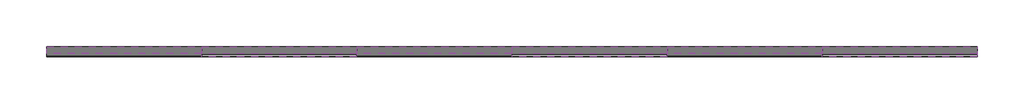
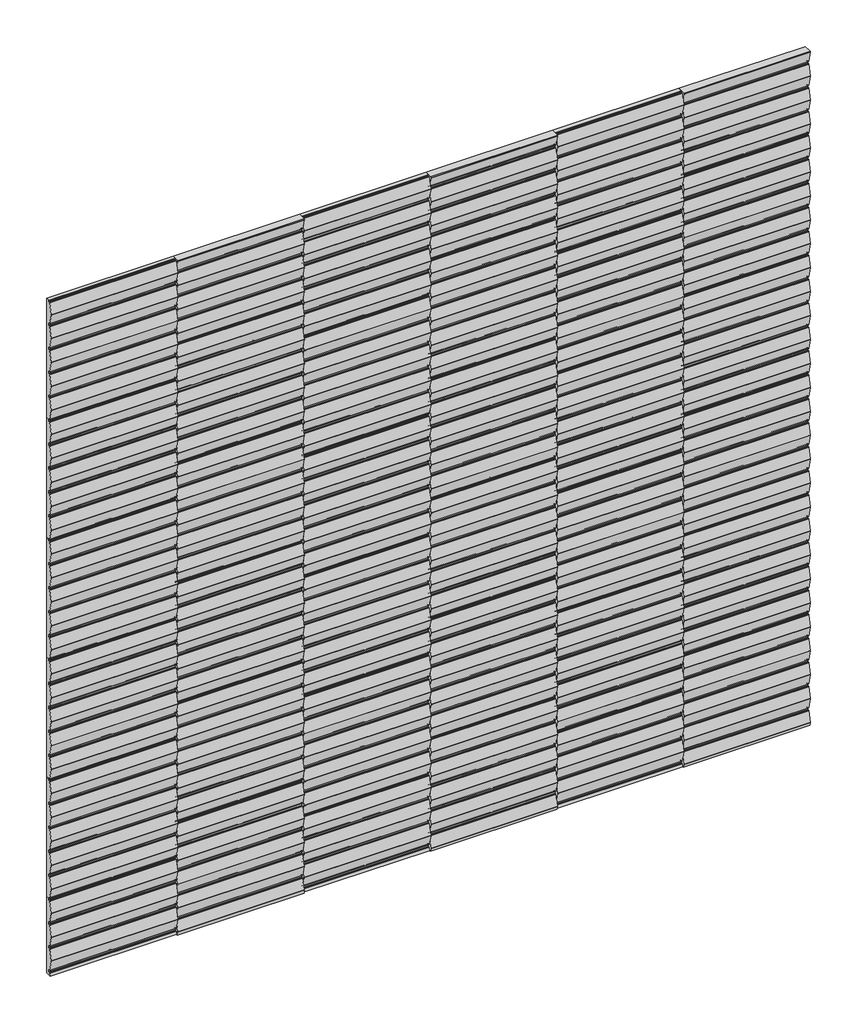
# One storey: 36 proxies.
"""IFC4 building model written with IfcOpenShell, lengths in millimetres."""

from ifc_helpers import new_model, si_unit, origin, place, context, project, spatial, transform, mapped, element, save
from components import specialty_equipment_52cbe585, specialty_equipment_d38fff4d, specialty_equipment_08d15245, specialty_equipment_7f9fb075

model = new_model("IFC4")

# Units and contexts
model_context = context("Model", 3, world=origin())
ifc_project = project(units=[si_unit("LENGTHUNIT", "METRE", prefix="MILLI")], contexts=[model_context])

# Site, building, storey
site = spatial("IfcSite", under=ifc_project)
building = spatial("IfcBuilding", under=site)
storey = spatial("IfcBuildingStorey", under=building, Name="Nível 1", Elevation=0.0)

# Proxies
placement = place(None, origin())
specialty_equipment_shape = specialty_equipment_52cbe585(model_context)
element("IfcBuildingElementProxy", 1, Name="Spinneybeck_Porto 2 : Porto 2", ObjectType="Spinneybeck_Porto 2 : Porto 2", at=placement, inside=storey, context=model_context, shape_type="MappedRepresentation", body=[
    mapped(specialty_equipment_shape, transform((-3406.4383737, 552.5357437, 461.4128011), x_axis=(0.0, 0.0, 1.0), y_axis=(-1.0, 0.0, 0.0), z_axis=(0.0, -1.0, 0.0))),
])
element("IfcBuildingElementProxy", 2, Name="Spinneybeck_Porto 2 : Porto 2", ObjectType="Spinneybeck_Porto 2 : Porto 2", at=placement, inside=storey, context=model_context, shape_type="MappedRepresentation", body=[
    mapped(specialty_equipment_shape, transform((-3406.4383737, 552.5357437, 867.8128011), x_axis=(0.0, 0.0, 1.0), y_axis=(-1.0, 0.0, 0.0), z_axis=(0.0, -1.0, 0.0))),
])
element("IfcBuildingElementProxy", 3, Name="Spinneybeck_Porto 2 : Porto 2", ObjectType="Spinneybeck_Porto 2 : Porto 2", at=placement, inside=storey, context=model_context, shape_type="MappedRepresentation", body=[
    mapped(specialty_equipment_shape, transform((-3406.4383737, 552.5357437, 1274.2128011), x_axis=(0.0, 0.0, 1.0), y_axis=(-1.0, 0.0, 0.0), z_axis=(0.0, -1.0, 0.0))),
])
element("IfcBuildingElementProxy", 4, Name="Spinneybeck_Porto 2 : Porto 2", ObjectType="Spinneybeck_Porto 2 : Porto 2", at=placement, inside=storey, context=model_context, shape_type="MappedRepresentation", body=[
    mapped(specialty_equipment_shape, transform((-3406.4383737, 552.5357437, 1680.6128011), x_axis=(0.0, 0.0, 1.0), y_axis=(-1.0, 0.0, 0.0), z_axis=(0.0, -1.0, 0.0))),
])
element("IfcBuildingElementProxy", 5, Name="Spinneybeck_Porto 2 : Porto 2", ObjectType="Spinneybeck_Porto 2 : Porto 2", at=placement, inside=storey, context=model_context, shape_type="MappedRepresentation", body=[
    mapped(specialty_equipment_shape, transform((-3406.4383737, 552.5357437, 2087.0128011), x_axis=(0.0, 0.0, 1.0), y_axis=(-1.0, 0.0, 0.0), z_axis=(0.0, -1.0, 0.0))),
])
element("IfcBuildingElementProxy", 6, Name="Spinneybeck_Porto 2 : Porto 2", ObjectType="Spinneybeck_Porto 2 : Porto 2", at=placement, inside=storey, context=model_context, shape_type="MappedRepresentation", body=[
    mapped(specialty_equipment_shape, transform((-3000.0383737, 552.5357437, 580.4753011), x_axis=(0.0, 0.0, 1.0), y_axis=(-1.0, 0.0, 0.0), z_axis=(0.0, -1.0, 0.0))),
])
element("IfcBuildingElementProxy", 7, Name="Spinneybeck_Porto 2 : Porto 2", ObjectType="Spinneybeck_Porto 2 : Porto 2", at=placement, inside=storey, context=model_context, shape_type="MappedRepresentation", body=[
    mapped(specialty_equipment_shape, transform((-3000.0383737, 552.5357437, 986.8753011), x_axis=(0.0, 0.0, 1.0), y_axis=(-1.0, 0.0, 0.0), z_axis=(0.0, -1.0, 0.0))),
])
element("IfcBuildingElementProxy", 8, Name="Spinneybeck_Porto 2 : Porto 2", ObjectType="Spinneybeck_Porto 2 : Porto 2", at=placement, inside=storey, context=model_context, shape_type="MappedRepresentation", body=[
    mapped(specialty_equipment_shape, transform((-3000.0383737, 552.5357437, 1393.2753011), x_axis=(0.0, 0.0, 1.0), y_axis=(-1.0, 0.0, 0.0), z_axis=(0.0, -1.0, 0.0))),
])
element("IfcBuildingElementProxy", 9, Name="Spinneybeck_Porto 2 : Porto 2", ObjectType="Spinneybeck_Porto 2 : Porto 2", at=placement, inside=storey, context=model_context, shape_type="MappedRepresentation", body=[
    mapped(specialty_equipment_shape, transform((-3000.0383737, 552.5357437, 1799.6753011), x_axis=(0.0, 0.0, 1.0), y_axis=(-1.0, 0.0, 0.0), z_axis=(0.0, -1.0, 0.0))),
])
element("IfcBuildingElementProxy", 10, Name="Spinneybeck_Porto 2 : Porto 2", ObjectType="Spinneybeck_Porto 2 : Porto 2", at=placement, inside=storey, context=model_context, shape_type="MappedRepresentation", body=[
    mapped(specialty_equipment_shape, transform((-2593.6383737, 552.5357437, 461.4128011), x_axis=(0.0, 0.0, 1.0), y_axis=(-1.0, 0.0, 0.0), z_axis=(0.0, -1.0, 0.0))),
])
element("IfcBuildingElementProxy", 11, Name="Spinneybeck_Porto 2 : Porto 2", ObjectType="Spinneybeck_Porto 2 : Porto 2", at=placement, inside=storey, context=model_context, shape_type="MappedRepresentation", body=[
    mapped(specialty_equipment_shape, transform((-2593.6383737, 552.5357437, 867.8128011), x_axis=(0.0, 0.0, 1.0), y_axis=(-1.0, 0.0, 0.0), z_axis=(0.0, -1.0, 0.0))),
])
element("IfcBuildingElementProxy", 12, Name="Spinneybeck_Porto 2 : Porto 2", ObjectType="Spinneybeck_Porto 2 : Porto 2", at=placement, inside=storey, context=model_context, shape_type="MappedRepresentation", body=[
    mapped(specialty_equipment_shape, transform((-2593.6383737, 552.5357437, 1274.2128011), x_axis=(0.0, 0.0, 1.0), y_axis=(-1.0, 0.0, 0.0), z_axis=(0.0, -1.0, 0.0))),
])
element("IfcBuildingElementProxy", 13, Name="Spinneybeck_Porto 2 : Porto 2", ObjectType="Spinneybeck_Porto 2 : Porto 2", at=placement, inside=storey, context=model_context, shape_type="MappedRepresentation", body=[
    mapped(specialty_equipment_shape, transform((-2593.6383737, 552.5357437, 1680.6128011), x_axis=(0.0, 0.0, 1.0), y_axis=(-1.0, 0.0, 0.0), z_axis=(0.0, -1.0, 0.0))),
])
element("IfcBuildingElementProxy", 14, Name="Spinneybeck_Porto 2 : Porto 2", ObjectType="Spinneybeck_Porto 2 : Porto 2", at=placement, inside=storey, context=model_context, shape_type="MappedRepresentation", body=[
    mapped(specialty_equipment_shape, transform((-2593.6383737, 552.5357437, 2087.0128011), x_axis=(0.0, 0.0, 1.0), y_axis=(-1.0, 0.0, 0.0), z_axis=(0.0, -1.0, 0.0))),
])
element("IfcBuildingElementProxy", 15, Name="Spinneybeck_Porto 2 : Porto 2", ObjectType="Spinneybeck_Porto 2 : Porto 2", at=placement, inside=storey, context=model_context, shape_type="MappedRepresentation", body=[
    mapped(specialty_equipment_shape, transform((-2187.2383737, 552.5357437, 580.4753011), x_axis=(0.0, 0.0, 1.0), y_axis=(-1.0, 0.0, 0.0), z_axis=(0.0, -1.0, 0.0))),
])
element("IfcBuildingElementProxy", 16, Name="Spinneybeck_Porto 2 : Porto 2", ObjectType="Spinneybeck_Porto 2 : Porto 2", at=placement, inside=storey, context=model_context, shape_type="MappedRepresentation", body=[
    mapped(specialty_equipment_shape, transform((-2187.2383737, 552.5357437, 986.8753011), x_axis=(0.0, 0.0, 1.0), y_axis=(-1.0, 0.0, 0.0), z_axis=(0.0, -1.0, 0.0))),
])
element("IfcBuildingElementProxy", 17, Name="Spinneybeck_Porto 2 : Porto 2", ObjectType="Spinneybeck_Porto 2 : Porto 2", at=placement, inside=storey, context=model_context, shape_type="MappedRepresentation", body=[
    mapped(specialty_equipment_shape, transform((-2187.2383737, 552.5357437, 1393.2753011), x_axis=(0.0, 0.0, 1.0), y_axis=(-1.0, 0.0, 0.0), z_axis=(0.0, -1.0, 0.0))),
])
element("IfcBuildingElementProxy", 18, Name="Spinneybeck_Porto 2 : Porto 2", ObjectType="Spinneybeck_Porto 2 : Porto 2", at=placement, inside=storey, context=model_context, shape_type="MappedRepresentation", body=[
    mapped(specialty_equipment_shape, transform((-2187.2383737, 552.5357437, 1799.6753011), x_axis=(0.0, 0.0, 1.0), y_axis=(-1.0, 0.0, 0.0), z_axis=(0.0, -1.0, 0.0))),
])
element("IfcBuildingElementProxy", 19, Name="Spinneybeck_Porto 2 : Porto 2", ObjectType="Spinneybeck_Porto 2 : Porto 2", at=placement, inside=storey, context=model_context, shape_type="MappedRepresentation", body=[
    mapped(specialty_equipment_shape, transform((-1780.8383737, 552.5357437, 461.4128011), x_axis=(0.0, 0.0, 1.0), y_axis=(-1.0, 0.0, 0.0), z_axis=(0.0, -1.0, 0.0))),
])
element("IfcBuildingElementProxy", 20, Name="Spinneybeck_Porto 2 : Porto 2", ObjectType="Spinneybeck_Porto 2 : Porto 2", at=placement, inside=storey, context=model_context, shape_type="MappedRepresentation", body=[
    mapped(specialty_equipment_shape, transform((-1780.8383737, 552.5357437, 867.8128011), x_axis=(0.0, 0.0, 1.0), y_axis=(-1.0, 0.0, 0.0), z_axis=(0.0, -1.0, 0.0))),
])
element("IfcBuildingElementProxy", 21, Name="Spinneybeck_Porto 2 : Porto 2", ObjectType="Spinneybeck_Porto 2 : Porto 2", at=placement, inside=storey, context=model_context, shape_type="MappedRepresentation", body=[
    mapped(specialty_equipment_shape, transform((-1780.8383737, 552.5357437, 1274.2128011), x_axis=(0.0, 0.0, 1.0), y_axis=(-1.0, 0.0, 0.0), z_axis=(0.0, -1.0, 0.0))),
])
element("IfcBuildingElementProxy", 22, Name="Spinneybeck_Porto 2 : Porto 2", ObjectType="Spinneybeck_Porto 2 : Porto 2", at=placement, inside=storey, context=model_context, shape_type="MappedRepresentation", body=[
    mapped(specialty_equipment_shape, transform((-1780.8383737, 552.5357437, 1680.6128011), x_axis=(0.0, 0.0, 1.0), y_axis=(-1.0, 0.0, 0.0), z_axis=(0.0, -1.0, 0.0))),
])
element("IfcBuildingElementProxy", 23, Name="Spinneybeck_Porto 2 : Porto 2", ObjectType="Spinneybeck_Porto 2 : Porto 2", at=placement, inside=storey, context=model_context, shape_type="MappedRepresentation", body=[
    mapped(specialty_equipment_shape, transform((-1780.8383737, 552.5357437, 2087.0128011), x_axis=(0.0, 0.0, 1.0), y_axis=(-1.0, 0.0, 0.0), z_axis=(0.0, -1.0, 0.0))),
])
element("IfcBuildingElementProxy", 24, Name="Spinneybeck_Porto 2 : Porto 2", ObjectType="Spinneybeck_Porto 2 : Porto 2", at=placement, inside=storey, context=model_context, shape_type="MappedRepresentation", body=[
    mapped(specialty_equipment_shape, transform((-1374.4383737, 552.5357437, 580.4753011), x_axis=(0.0, 0.0, 1.0), y_axis=(-1.0, 0.0, 0.0), z_axis=(0.0, -1.0, 0.0))),
])
element("IfcBuildingElementProxy", 25, Name="Spinneybeck_Porto 2 : Porto 2", ObjectType="Spinneybeck_Porto 2 : Porto 2", at=placement, inside=storey, context=model_context, shape_type="MappedRepresentation", body=[
    mapped(specialty_equipment_shape, transform((-1374.4383737, 552.5357437, 986.8753011), x_axis=(0.0, 0.0, 1.0), y_axis=(-1.0, 0.0, 0.0), z_axis=(0.0, -1.0, 0.0))),
])
element("IfcBuildingElementProxy", 26, Name="Spinneybeck_Porto 2 : Porto 2", ObjectType="Spinneybeck_Porto 2 : Porto 2", at=placement, inside=storey, context=model_context, shape_type="MappedRepresentation", body=[
    mapped(specialty_equipment_shape, transform((-1374.4383737, 552.5357437, 1393.2753011), x_axis=(0.0, 0.0, 1.0), y_axis=(-1.0, 0.0, 0.0), z_axis=(0.0, -1.0, 0.0))),
])
element("IfcBuildingElementProxy", 27, Name="Spinneybeck_Porto 2 : Porto 2", ObjectType="Spinneybeck_Porto 2 : Porto 2", at=placement, inside=storey, context=model_context, shape_type="MappedRepresentation", body=[
    mapped(specialty_equipment_shape, transform((-1374.4383737, 552.5357437, 1799.6753011), x_axis=(0.0, 0.0, 1.0), y_axis=(-1.0, 0.0, 0.0), z_axis=(0.0, -1.0, 0.0))),
])
specialty_equipment_2_shape = specialty_equipment_d38fff4d(model_context)
element("IfcBuildingElementProxy", 28, Name="Spinneybeck_Porto 2 : Porto 2", ObjectType="Spinneybeck_Porto 2 : Porto 2", at=placement, inside=storey, context=model_context, shape_type="MappedRepresentation", body=[
    mapped(specialty_equipment_2_shape, transform((-3406.4383737, 552.5357437, 55.0128011), x_axis=(0.0, 0.0, 1.0), y_axis=(-1.0, 0.0, 0.0), z_axis=(0.0, -1.0, 0.0))),
])
element("IfcBuildingElementProxy", 29, Name="Spinneybeck_Porto 2 : Porto 2", ObjectType="Spinneybeck_Porto 2 : Porto 2", at=placement, inside=storey, context=model_context, shape_type="MappedRepresentation", body=[
    mapped(specialty_equipment_2_shape, transform((-2593.6383737, 552.5357437, 55.0128011), x_axis=(0.0, 0.0, 1.0), y_axis=(-1.0, 0.0, 0.0), z_axis=(0.0, -1.0, 0.0))),
])
element("IfcBuildingElementProxy", 30, Name="Spinneybeck_Porto 2 : Porto 2", ObjectType="Spinneybeck_Porto 2 : Porto 2", at=placement, inside=storey, context=model_context, shape_type="MappedRepresentation", body=[
    mapped(specialty_equipment_2_shape, transform((-1780.8383737, 552.5357437, 55.0128011), x_axis=(0.0, 0.0, 1.0), y_axis=(-1.0, 0.0, 0.0), z_axis=(0.0, -1.0, 0.0))),
])
specialty_equipment_3_shape = specialty_equipment_08d15245(model_context)
element("IfcBuildingElementProxy", 31, Name="Spinneybeck_Porto 2 : Porto 2", ObjectType="Spinneybeck_Porto 2 : Porto 2", at=placement, inside=storey, context=model_context, shape_type="MappedRepresentation", body=[
    mapped(specialty_equipment_3_shape, transform((-3000.0383737, 552.5357437, 174.0753011), x_axis=(0.0, 0.0, 1.0), y_axis=(-1.0, 0.0, 0.0), z_axis=(0.0, -1.0, 0.0))),
])
element("IfcBuildingElementProxy", 32, Name="Spinneybeck_Porto 2 : Porto 2", ObjectType="Spinneybeck_Porto 2 : Porto 2", at=placement, inside=storey, context=model_context, shape_type="MappedRepresentation", body=[
    mapped(specialty_equipment_3_shape, transform((-2187.2383737, 552.5357437, 174.0753011), x_axis=(0.0, 0.0, 1.0), y_axis=(-1.0, 0.0, 0.0), z_axis=(0.0, -1.0, 0.0))),
])
element("IfcBuildingElementProxy", 33, Name="Spinneybeck_Porto 2 : Porto 2", ObjectType="Spinneybeck_Porto 2 : Porto 2", at=placement, inside=storey, context=model_context, shape_type="MappedRepresentation", body=[
    mapped(specialty_equipment_3_shape, transform((-1374.4383737, 552.5357437, 174.0753011), x_axis=(0.0, 0.0, 1.0), y_axis=(-1.0, 0.0, 0.0), z_axis=(0.0, -1.0, 0.0))),
])
specialty_equipment_4_shape = specialty_equipment_7f9fb075(model_context)
element("IfcBuildingElementProxy", 34, Name="Spinneybeck_Porto 2 : Porto 2", ObjectType="Spinneybeck_Porto 2 : Porto 2", at=placement, inside=storey, context=model_context, shape_type="MappedRepresentation", body=[
    mapped(specialty_equipment_4_shape, transform((-3000.0383737, 552.5357437, 2206.0753011), x_axis=(0.0, 0.0, 1.0), y_axis=(-1.0, 0.0, 0.0), z_axis=(0.0, -1.0, 0.0))),
])
element("IfcBuildingElementProxy", 35, Name="Spinneybeck_Porto 2 : Porto 2", ObjectType="Spinneybeck_Porto 2 : Porto 2", at=placement, inside=storey, context=model_context, shape_type="MappedRepresentation", body=[
    mapped(specialty_equipment_4_shape, transform((-2187.2383737, 552.5357437, 2206.0753011), x_axis=(0.0, 0.0, 1.0), y_axis=(-1.0, 0.0, 0.0), z_axis=(0.0, -1.0, 0.0))),
])
element("IfcBuildingElementProxy", 36, Name="Spinneybeck_Porto 2 : Porto 2", ObjectType="Spinneybeck_Porto 2 : Porto 2", at=placement, inside=storey, context=model_context, shape_type="MappedRepresentation", body=[
    mapped(specialty_equipment_4_shape, transform((-1374.4383737, 552.5357437, 2206.0753011), x_axis=(0.0, 0.0, 1.0), y_axis=(-1.0, 0.0, 0.0), z_axis=(0.0, -1.0, 0.0))),
])

save(model, "model.ifc")
